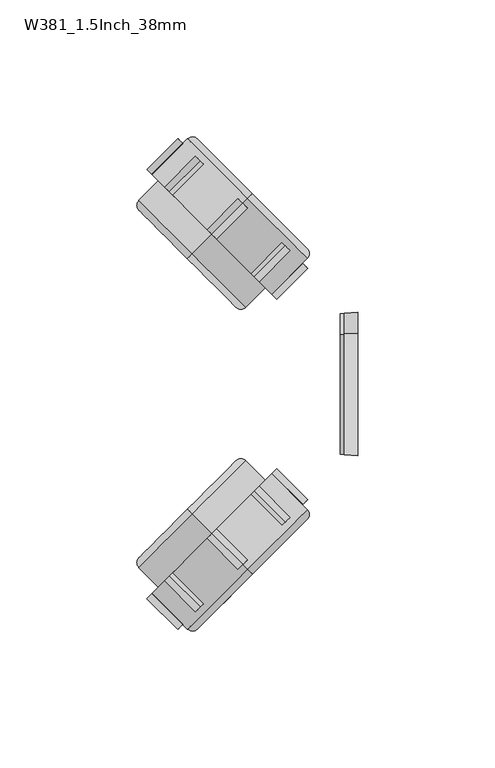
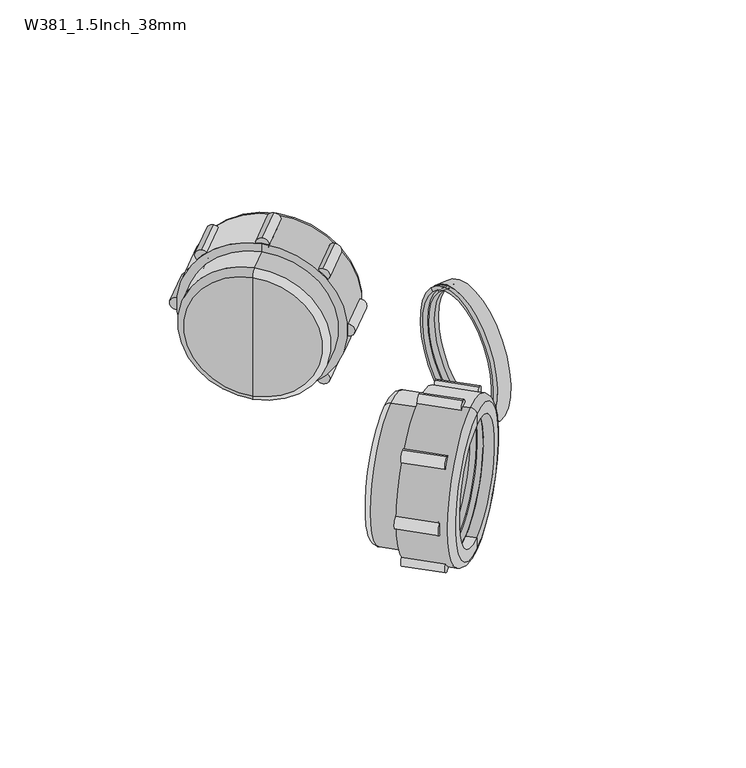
"""IFC4 building model written with IfcOpenShell, lengths in millimetres: pipe fitting geometry, Durapipe_PipeFitting_VulcatheneMechanical_DoubleWye_W38 : W381_1.5Inch_38mm."""

from ifc_helpers import new_model, si_unit, point, frame, frame_2d, origin, place, context, project, spatial, polyline, circle_curve, ellipse_curve, trimmed, segment, composite_curve, outline, extrude, source, transform, mapped, element, save
from ifc_brep_helpers import plane_surface, cylinder_surface, revolved_surface, advanced_brep


def w381_1_5inch_38mm_807b89dd(model_context):
    return source(origin(), model_context, "Body", "SolidModel", [
        advanced_brep(
        [(53.3180374, -79.6180374, -18.5969083), (54.3680374, -78.5680374, -17.1119841), (78.5680374, -54.3680374, 17.1119841), (79.6180374, -53.3180374, 18.5969083), (49.9825035, -75.8825035, -18.3140656), (75.8825035, -49.9825035, 18.3140656), (49.0718434, -74.6718434, -18.1019336), (50.1325035, -75.7325035, -18.1019336), (75.7325035, -50.1325035, 18.1019336), (74.6718434, -49.0718434, 18.1019336), (73.9718434, -49.7718434, 17.1119841), (49.7718434, -73.9718434, -17.1119841), (75.3860569, -51.1860569, 17.1119841), (51.1860569, -75.3860569, -17.1119841), (74.9860569, -51.5860569, 16.5462987), (51.5860569, -74.9860569, -16.5462987), (52.8124025, -77.0124025, -17.1119841), (53.2124025, -76.6124025, -16.5462987), (76.6124025, -53.2124025, 16.5462987), (77.0124025, -52.8124025, 17.1119841)],
        [
            (0, 1),
            (1, 2, circle_curve(frame((66.4680374, -66.4680374, 0.0), z_axis=(-0.7071067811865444, 0.7071067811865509, 0.0), x_axis=(0.5000000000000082, 0.4999999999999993, 0.7071067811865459)), 24.2)),
            (2, 3),
            (3, 0, circle_curve(frame((66.4680374, -66.4680374, 0.0), z_axis=(0.7071067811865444, -0.7071067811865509, 0.0), x_axis=(0.5000000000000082, 0.4999999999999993, 0.7071067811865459)), 26.3)),
            (2, 1, circle_curve(frame((66.4680374, -66.4680374, 0.0), z_axis=(-0.7071067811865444, 0.7071067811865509, 0.0), x_axis=(0.5000000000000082, 0.4999999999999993, 0.7071067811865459)), 24.2)),
            (0, 3, circle_curve(frame((66.4680374, -66.4680374, 0.0), z_axis=(0.7071067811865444, -0.7071067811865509, 0.0), x_axis=(0.5000000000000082, 0.4999999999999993, 0.7071067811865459)), 26.3)),
            (4, 0),
            (3, 5),
            (5, 4, circle_curve(frame((62.9325035, -62.9325035, 0.0), z_axis=(0.7071067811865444, -0.7071067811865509, 0.0), x_axis=(0.5000000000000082, 0.4999999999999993, 0.7071067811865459)), 25.9)),
            (4, 5, circle_curve(frame((62.9325035, -62.9325035, 0.0), z_axis=(0.7071067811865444, -0.7071067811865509, 0.0), x_axis=(0.5000000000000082, 0.4999999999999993, 0.7071067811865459)), 25.9)),
            (6, 7),
            (7, 8, circle_curve(frame((62.9325035, -62.9325035, 0.0), z_axis=(-0.7071067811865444, 0.7071067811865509, 0.0), x_axis=(0.5000000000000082, 0.4999999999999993, 0.7071067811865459)), 25.6)),
            (8, 9),
            (9, 6, circle_curve(frame((61.8718434, -61.8718434, 0.0), z_axis=(0.7071067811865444, -0.7071067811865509, 0.0), x_axis=(0.5000000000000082, 0.4999999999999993, 0.7071067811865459)), 25.6)),
            (8, 7, circle_curve(frame((62.9325035, -62.9325035, 0.0), z_axis=(-0.7071067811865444, 0.7071067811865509, 0.0), x_axis=(0.5000000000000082, 0.4999999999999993, 0.7071067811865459)), 25.6)),
            (6, 9, circle_curve(frame((61.8718434, -61.8718434, 0.0), z_axis=(0.7071067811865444, -0.7071067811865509, 0.0), x_axis=(0.5000000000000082, 0.4999999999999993, 0.7071067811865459)), 25.6)),
            (9, 10),
            (10, 11, circle_curve(frame((61.8718434, -61.8718434, 0.0), z_axis=(0.7071067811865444, -0.7071067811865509, 0.0), x_axis=(0.5000000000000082, 0.4999999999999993, 0.7071067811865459)), 24.2)),
            (11, 6),
            (11, 10, circle_curve(frame((61.8718434, -61.8718434, 0.0), z_axis=(0.7071067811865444, -0.7071067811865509, 0.0), x_axis=(0.5000000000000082, 0.4999999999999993, 0.7071067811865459)), 24.2)),
            (10, 12),
            (12, 13, circle_curve(frame((63.2860569, -63.2860569, 0.0), z_axis=(0.7071067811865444, -0.7071067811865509, 0.0), x_axis=(0.5000000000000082, 0.4999999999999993, 0.7071067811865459)), 24.2)),
            (13, 11),
            (13, 12, circle_curve(frame((63.2860569, -63.2860569, 0.0), z_axis=(0.7071067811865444, -0.7071067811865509, 0.0), x_axis=(0.5000000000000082, 0.4999999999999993, 0.7071067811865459)), 24.2)),
            (12, 14),
            (14, 15, circle_curve(frame((63.2860569, -63.2860569, 0.0), z_axis=(0.7071067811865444, -0.7071067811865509, 0.0), x_axis=(0.5000000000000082, 0.4999999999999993, 0.7071067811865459)), 23.4)),
            (15, 13),
            (15, 14, circle_curve(frame((63.2860569, -63.2860569, 0.0), z_axis=(0.7071067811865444, -0.7071067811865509, 0.0), x_axis=(0.5000000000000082, 0.4999999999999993, 0.7071067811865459)), 23.4)),
            (16, 17),
            (17, 18, circle_curve(frame((64.9124025, -64.9124025, 0.0), z_axis=(-0.7071067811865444, 0.7071067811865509, 0.0), x_axis=(0.5000000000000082, 0.4999999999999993, 0.7071067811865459)), 23.4)),
            (18, 19),
            (19, 16, circle_curve(frame((64.9124025, -64.9124025, 0.0), z_axis=(0.7071067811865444, -0.7071067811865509, 0.0), x_axis=(0.5000000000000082, 0.4999999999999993, 0.7071067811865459)), 24.2)),
            (18, 17, circle_curve(frame((64.9124025, -64.9124025, 0.0), z_axis=(-0.7071067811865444, 0.7071067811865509, 0.0), x_axis=(0.5000000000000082, 0.4999999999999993, 0.7071067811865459)), 23.4)),
            (16, 19, circle_curve(frame((64.9124025, -64.9124025, 0.0), z_axis=(0.7071067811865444, -0.7071067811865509, 0.0), x_axis=(0.5000000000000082, 0.4999999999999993, 0.7071067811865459)), 24.2)),
            (1, 16),
            (19, 2),
            (14, 18),
            (17, 15),
            (5, 8),
            (7, 4),
        ],
        [
            plane_surface(frame((66.4680374, -66.4680374, 0.0), z_axis=(0.7071067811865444, -0.7071067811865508, 0.0), x_axis=(0.5000000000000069, 0.49999999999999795, 0.707106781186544))),
            revolved_surface(polyline([(79.6180374, -53.3180374, 18.5969083), (75.8825035, -49.9825035, 18.3140656)]), (70.0035713, -70.0035713, 0.0), (-0.7071067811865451, 0.7071067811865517, 0.0)),
            cylinder_surface(frame((60.4076687, -60.4076687, 0.0), z_axis=(-0.7071067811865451, 0.7071067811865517, 0.0), x_axis=(0.5000000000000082, 0.4999999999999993, 0.7071067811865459)), 25.6),
            plane_surface(frame((61.8718434, -61.8718434, 0.0), z_axis=(-0.7071067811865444, 0.7071067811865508, 0.0), x_axis=(0.5000000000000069, 0.49999999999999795, 0.707106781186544))),
            revolved_surface(polyline([(73.97184340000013, -49.77184339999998, 17.11198410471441), (75.38605690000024, -51.186056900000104, 17.11198410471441)]), (59.4019258, -59.4019258, 0.0), (-0.7071067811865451, 0.7071067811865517, 0.0)),
            plane_surface(frame((63.2860569, -63.2860569, 0.0), z_axis=(-0.7071067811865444, 0.7071067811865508, 0.0), x_axis=(0.5000000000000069, 0.49999999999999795, 0.707106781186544))),
            plane_surface(frame((64.9124025, -64.9124025, 0.0), z_axis=(0.7071067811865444, -0.7071067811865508, 0.0), x_axis=(0.5000000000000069, 0.49999999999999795, 0.707106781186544))),
            revolved_surface(polyline([(77.01240250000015, -52.81240249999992, 17.11198410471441), (78.56803740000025, -54.36803740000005, 17.11198410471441)]), (70.0035713, -70.0035713, 0.0), (-0.7071067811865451, 0.7071067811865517, 0.0)),
            revolved_surface(polyline([(74.98605690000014, -51.58605689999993, 16.546298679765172), (76.61240250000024, -53.21240250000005, 16.546298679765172)]), (67.5755027, -67.5755027, 0.0), (-0.7071067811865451, 0.7071067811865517, 0.0)),
            plane_surface(frame((62.9325035, -62.9325035, 0.0), z_axis=(-0.7071067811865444, 0.7071067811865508, 0.0), x_axis=(0.5000000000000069, 0.49999999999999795, 0.707106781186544))),
        ],
        [
            (0, [[1, 2, 3, 4]]),
            (0, [[5, -1, 6, -3]]),
            (1, [[7, -4, 8, 9]]),
            (1, [[-8, -6, -7, 10]]),
            (2, [[11, 12, 13, 14]]),
            (2, [[15, -11, 16, -13]]),
            (3, [[17, 18, 19, -14]]),
            (3, [[-19, 20, -17, -16]]),
            (4, [[-18, 21, 22, 23]]),
            (4, [[24, -21, -20, -23]]),
            (5, [[25, 26, 27, -22]]),
            (5, [[-27, 28, -25, -24]]),
            (6, [[29, 30, 31, 32]]),
            (6, [[-31, 33, -29, 34]]),
            (7, [[35, -32, 36, -2]]),
            (7, [[-36, -34, -35, -5]]),
            (8, [[-26, 37, -30, 38]]),
            (8, [[-33, -37, -28, -38]]),
            (9, [[39, -12, 40, -9]]),
            (9, [[-40, -15, -39, -10]]),
        ],
    ),
        advanced_brep(
        [(54.6593542, -54.6593542, -31.0), (67.670119, -67.670119, -31.0), (67.670119, -67.670119, 31.0), (54.6593542, -54.6593542, 31.0), (54.6593542, -54.6593542, -27.7), (54.6593542, -54.6593542, 27.7), (69.4378859, -69.4378859, -28.5), (69.4378859, -69.4378859, -24.0), (69.4378859, -69.4378859, 24.0), (69.4378859, -69.4378859, 28.5), (66.4680374, -66.4680374, -26.0), (54.6593542, -54.6593542, -26.0), (54.6593542, -54.6593542, 26.0), (66.4680374, -66.4680374, 26.0), (66.4680374, -66.4680374, -24.0), (66.4680374, -66.4680374, 24.0), (47.5175757, -47.5175757, -27.7), (47.5175757, -47.5175757, 27.7), (45.7498087, -45.7498087, -25.2), (45.7498087, -45.7498087, 25.2), (45.7498087, -45.7498087, 0.0), (54.6593542, -54.6593542, 0.0)],
        [
            (0, 1),
            (1, 2, circle_curve(frame((67.670119, -67.670119, 0.0), z_axis=(-0.707106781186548, 0.7071067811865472, 0.0), x_axis=(0.0, 0.0, 1.0000000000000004)), 31.0)),
            (2, 3),
            (3, 0, circle_curve(frame((54.6593542, -54.6593542, 0.0), z_axis=(0.707106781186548, -0.7071067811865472, 0.0), x_axis=(0.0, 0.0, 1.0000000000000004)), 31.0)),
            (2, 1, circle_curve(frame((67.670119, -67.670119, 0.0), z_axis=(-0.707106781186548, 0.7071067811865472, 0.0), x_axis=(0.0, 0.0, 1.0000000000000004)), 31.0)),
            (0, 3, circle_curve(frame((54.6593542, -54.6593542, 0.0), z_axis=(0.707106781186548, -0.7071067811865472, 0.0), x_axis=(0.0, 0.0, 1.0000000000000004)), 31.0)),
            (4, 0),
            (3, 5),
            (5, 4, circle_curve(frame((54.6593542, -54.6593542, 0.0), z_axis=(0.707106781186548, -0.7071067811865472, 0.0), x_axis=(0.0, 0.0, 1.0000000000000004)), 27.7)),
            (4, 5, circle_curve(frame((54.6593542, -54.6593542, 0.0), z_axis=(0.707106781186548, -0.7071067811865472, 0.0), x_axis=(0.0, 0.0, 1.0000000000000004)), 27.7)),
            (6, 7),
            (7, 8, circle_curve(frame((69.4378859, -69.4378859, 0.0), z_axis=(-0.707106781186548, 0.7071067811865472, 0.0), x_axis=(0.0, 0.0, 1.0000000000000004)), 24.0)),
            (8, 9),
            (9, 6, circle_curve(frame((69.4378859, -69.4378859, 0.0), z_axis=(0.707106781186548, -0.7071067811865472, 0.0), x_axis=(0.0, 0.0, 1.0000000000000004)), 28.5)),
            (8, 7, circle_curve(frame((69.4378859, -69.4378859, 0.0), z_axis=(-0.707106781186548, 0.7071067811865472, 0.0), x_axis=(0.0, 0.0, 1.0000000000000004)), 24.0)),
            (6, 9, circle_curve(frame((69.4378859, -69.4378859, 0.0), z_axis=(0.707106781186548, -0.7071067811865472, 0.0), x_axis=(0.0, 0.0, 1.0000000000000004)), 28.5)),
            (1, 6, circle_curve(frame((67.670119, -67.670119, -28.5), z_axis=(-0.7071067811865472, -0.707106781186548, 0.0), x_axis=(0.707106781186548, -0.7071067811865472, 0.0)), 2.5)),
            (9, 2, circle_curve(frame((67.670119, -67.670119, 28.5), z_axis=(-0.7071067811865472, -0.707106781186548, 0.0), x_axis=(0.707106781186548, -0.7071067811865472, 0.0)), 2.5)),
            (10, 11),
            (11, 12, circle_curve(frame((54.6593542, -54.6593542, 0.0), z_axis=(-0.707106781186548, 0.7071067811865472, 0.0), x_axis=(0.0, 0.0, 1.0000000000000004)), 26.0)),
            (12, 13),
            (13, 10, circle_curve(frame((66.4680374, -66.4680374, 0.0), z_axis=(0.707106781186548, -0.7071067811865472, 0.0), x_axis=(0.0, 0.0, 1.0000000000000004)), 26.0)),
            (12, 11, circle_curve(frame((54.6593542, -54.6593542, 0.0), z_axis=(-0.707106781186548, 0.7071067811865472, 0.0), x_axis=(0.0, 0.0, 1.0000000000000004)), 26.0)),
            (10, 13, circle_curve(frame((66.4680374, -66.4680374, 0.0), z_axis=(0.707106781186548, -0.7071067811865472, 0.0), x_axis=(0.0, 0.0, 1.0000000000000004)), 26.0)),
            (14, 10),
            (13, 15),
            (15, 14, circle_curve(frame((66.4680374, -66.4680374, 0.0), z_axis=(0.707106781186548, -0.7071067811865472, 0.0), x_axis=(0.0, 0.0, 1.0000000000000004)), 24.0)),
            (14, 15, circle_curve(frame((66.4680374, -66.4680374, 0.0), z_axis=(0.707106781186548, -0.7071067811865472, 0.0), x_axis=(0.0, 0.0, 1.0000000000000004)), 24.0)),
            (7, 14),
            (15, 8),
            (16, 4),
            (5, 17),
            (17, 16, circle_curve(frame((47.5175757, -47.5175757, 0.0), z_axis=(0.707106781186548, -0.7071067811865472, 0.0), x_axis=(0.0, 0.0, 1.0000000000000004)), 27.7)),
            (16, 17, circle_curve(frame((47.5175757, -47.5175757, 0.0), z_axis=(0.707106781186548, -0.7071067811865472, 0.0), x_axis=(0.0, 0.0, 1.0000000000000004)), 27.7)),
            (18, 16, circle_curve(frame((47.5175757, -47.5175757, -25.2), z_axis=(-0.7071067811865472, -0.707106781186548, 0.0), x_axis=(0.707106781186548, -0.7071067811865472, 0.0)), 2.5)),
            (17, 19, circle_curve(frame((47.5175757, -47.5175757, 25.2), z_axis=(-0.7071067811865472, -0.707106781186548, 0.0), x_axis=(0.707106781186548, -0.7071067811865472, 0.0)), 2.5)),
            (19, 18, circle_curve(frame((45.7498087, -45.7498087, 0.0), z_axis=(0.707106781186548, -0.7071067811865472, 0.0), x_axis=(0.0, 0.0, 1.0000000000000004)), 25.2)),
            (18, 19, circle_curve(frame((45.7498087, -45.7498087, 0.0), z_axis=(0.707106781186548, -0.7071067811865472, 0.0), x_axis=(0.0, 0.0, 1.0000000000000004)), 25.2)),
            (20, 18),
            (19, 20),
            (11, 21),
            (21, 12),
        ],
        [
            cylinder_surface(frame((1173.0914358, -1173.0914358, 0.0), z_axis=(-0.707106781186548, 0.7071067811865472, 0.0), x_axis=(0.0, 0.0, 1.0000000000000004)), 31.0),
            plane_surface(frame((54.6593542, -54.6593542, 0.0), z_axis=(-0.7071067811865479, 0.7071067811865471, 0.0), x_axis=(0.0, 0.0, 1.0))),
            plane_surface(frame((69.4378859, -69.4378859, 0.0), z_axis=(0.7071067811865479, -0.7071067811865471, 0.0), x_axis=(0.0, 0.0, 1.0))),
            revolved_surface(trimmed(ellipse_curve(frame((67.670119, -67.670119, 28.5), z_axis=(-0.7071067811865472, -0.707106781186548, 0.0), x_axis=(0.707106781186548, -0.7071067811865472, 0.0)), 2.5, 2.5), [point((69.4378859, -69.4378859, 28.5))], [point((67.670119, -67.670119, 31.0))], True, "CARTESIAN"), (1173.0914358, -1173.0914358, 0.0), (-0.707106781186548, 0.7071067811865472, 0.0)),
            revolved_surface(polyline([(54.65935419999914, -54.65935420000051, 26.00000000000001), (66.46803739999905, -66.46803740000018, 26.00000000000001)]), (1173.0914358, -1173.0914358, 0.0), (-0.707106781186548, 0.7071067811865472, 0.0)),
            plane_surface(frame((66.4680374, -66.4680374, 0.0), z_axis=(-0.7071067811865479, 0.7071067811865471, 0.0), x_axis=(0.0, 0.0, 1.0))),
            revolved_surface(polyline([(66.46803739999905, -66.46803740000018, 24.00000000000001), (69.43788589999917, -69.43788590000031, 24.00000000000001)]), (1173.0914358, -1173.0914358, 0.0), (-0.707106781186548, 0.7071067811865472, 0.0)),
            cylinder_surface(frame((1173.0914358, -1173.0914358, 0.0), z_axis=(-0.707106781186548, 0.7071067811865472, 0.0), x_axis=(0.0, 0.0, 1.0000000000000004)), 27.7),
            revolved_surface(trimmed(ellipse_curve(frame((47.5175757, -47.5175757, 25.2), z_axis=(-0.7071067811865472, -0.707106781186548, 0.0), x_axis=(0.707106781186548, -0.7071067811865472, 0.0)), 2.5, 2.5), [point((47.5175757, -47.5175757, 27.7))], [point((45.7498087, -45.7498087, 25.2))], True, "CARTESIAN"), (1173.0914358, -1173.0914358, 0.0), (-0.707106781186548, 0.7071067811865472, 0.0)),
            plane_surface(frame((45.7498087, -45.7498087, 0.0), z_axis=(-0.7071067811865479, 0.7071067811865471, 0.0), x_axis=(0.0, 0.0, 1.0))),
            plane_surface(frame((54.6593542, -54.6593542, 0.0), z_axis=(0.7071067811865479, -0.7071067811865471, 0.0), x_axis=(0.0, 0.0, 1.0))),
        ],
        [
            (0, [[1, 2, 3, 4]]),
            (0, [[-3, 5, -1, 6]]),
            (1, [[7, -4, 8, 9]]),
            (1, [[-8, -6, -7, 10]]),
            (2, [[11, 12, 13, 14]]),
            (2, [[-13, 15, -11, 16]]),
            (3, [[17, -14, 18, -2]]),
            (3, [[-18, -16, -17, -5]]),
            (4, [[19, 20, 21, 22]]),
            (4, [[-21, 23, -19, 24]]),
            (5, [[25, -22, 26, 27]]),
            (5, [[-26, -24, -25, 28]]),
            (6, [[29, -27, 30, -12]]),
            (6, [[-30, -28, -29, -15]]),
            (7, [[31, -9, 32, 33]]),
            (7, [[-32, -10, -31, 34]]),
            (8, [[35, -33, 36, 37]]),
            (8, [[-36, -34, -35, 38]]),
            (9, [[39, -37, 40]]),
            (9, [[-40, -38, -39]]),
            (10, [[41, 42, -20]]),
            (10, [[-42, -41, -23]]),
        ],
    ),
        extrude(outline(composite_curve([segment(trimmed(circle_curve(frame_2d((0.0, 2.5)), 2.5), [point((0.0, 5.0))], [point((0.0, 0.0))], False, "CARTESIAN"), True, "CONTINUOUS"), segment(trimmed(circle_curve(frame_2d((0.0, 2.5)), 2.5), [point((0.0, 0.0))], [point((0.0, 5.0))], False, "CARTESIAN"), True, "CONTINUOUS")], self_intersect=False)), frame((87.8226622, -43.9820418, 2.5), z_axis=(-0.7071067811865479, 0.7071067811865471, 0.0), x_axis=(0.7071067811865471, 0.7071067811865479, 0.0)), (0.0, 0.0, 1.0), 15.9),
        extrude(outline(composite_curve([segment(trimmed(circle_curve(frame_2d((-9.0796898, -19.4203102)), 2.5), [point((-9.0796898, -16.9203102))], [point((-9.0796898, -21.9203102))], False, "CARTESIAN"), True, "CONTINUOUS"), segment(trimmed(circle_curve(frame_2d((-9.0796898, -19.4203102)), 2.5), [point((-9.0796898, -21.9203102))], [point((-9.0796898, -16.9203102))], False, "CARTESIAN"), True, "CONTINUOUS")], self_intersect=False)), frame((87.8226622, -43.9820418, 2.5), z_axis=(-0.7071067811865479, 0.7071067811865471, 0.0), x_axis=(0.7071067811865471, 0.7071067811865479, 0.0)), (0.0, 0.0, 1.0), 15.9),
        extrude(outline(composite_curve([segment(trimmed(circle_curve(frame_2d((-31.0, -28.5)), 2.5), [point((-31.0, -26.0))], [point((-31.0, -31.0))], False, "CARTESIAN"), True, "CONTINUOUS"), segment(trimmed(circle_curve(frame_2d((-31.0, -28.5)), 2.5), [point((-31.0, -31.0))], [point((-31.0, -26.0))], False, "CARTESIAN"), True, "CONTINUOUS")], self_intersect=False)), frame((87.8226622, -43.9820418, 2.5), z_axis=(-0.7071067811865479, 0.7071067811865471, 0.0), x_axis=(0.7071067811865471, 0.7071067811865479, 0.0)), (0.0, 0.0, 1.0), 15.9),
        extrude(outline(composite_curve([segment(trimmed(circle_curve(frame_2d((-52.9203102, -19.4203102)), 2.5), [point((-52.9203102, -16.9203102))], [point((-52.9203102, -21.9203102))], False, "CARTESIAN"), True, "CONTINUOUS"), segment(trimmed(circle_curve(frame_2d((-52.9203102, -19.4203102)), 2.5), [point((-52.9203102, -21.9203102))], [point((-52.9203102, -16.9203102))], False, "CARTESIAN"), True, "CONTINUOUS")], self_intersect=False)), frame((87.8226622, -43.9820418, 2.5), z_axis=(-0.7071067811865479, 0.7071067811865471, 0.0), x_axis=(0.7071067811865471, 0.7071067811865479, 0.0)), (0.0, 0.0, 1.0), 15.9),
        extrude(outline(composite_curve([segment(trimmed(circle_curve(frame_2d((-62.0, 2.5)), 2.5), [point((-62.0, 5.0))], [point((-62.0, 0.0))], False, "CARTESIAN"), True, "CONTINUOUS"), segment(trimmed(circle_curve(frame_2d((-62.0, 2.5)), 2.5), [point((-62.0, 0.0))], [point((-62.0, 5.0))], False, "CARTESIAN"), True, "CONTINUOUS")], self_intersect=False)), frame((87.8226622, -43.9820418, 2.5), z_axis=(-0.7071067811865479, 0.7071067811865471, 0.0), x_axis=(0.7071067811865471, 0.7071067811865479, 0.0)), (0.0, 0.0, 1.0), 15.9),
        extrude(outline(composite_curve([segment(trimmed(circle_curve(frame_2d((-52.9203102, 24.4203102)), 2.5), [point((-52.9203102, 26.9203102))], [point((-52.9203102, 21.9203102))], False, "CARTESIAN"), True, "CONTINUOUS"), segment(trimmed(circle_curve(frame_2d((-52.9203102, 24.4203102)), 2.5), [point((-52.9203102, 21.9203102))], [point((-52.9203102, 26.9203102))], False, "CARTESIAN"), True, "CONTINUOUS")], self_intersect=False)), frame((87.8226622, -43.9820418, 2.5), z_axis=(-0.7071067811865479, 0.7071067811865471, 0.0), x_axis=(0.7071067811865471, 0.7071067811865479, 0.0)), (0.0, 0.0, 1.0), 15.9),
        extrude(outline(composite_curve([segment(trimmed(circle_curve(frame_2d((-31.0, 33.5)), 2.5), [point((-31.0, 36.0))], [point((-31.0, 31.0))], False, "CARTESIAN"), True, "CONTINUOUS"), segment(trimmed(circle_curve(frame_2d((-31.0, 33.5)), 2.5), [point((-31.0, 31.0))], [point((-31.0, 36.0))], False, "CARTESIAN"), True, "CONTINUOUS")], self_intersect=False)), frame((87.8226622, -43.9820418, 2.5), z_axis=(-0.7071067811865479, 0.7071067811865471, 0.0), x_axis=(0.7071067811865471, 0.7071067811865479, 0.0)), (0.0, 0.0, 1.0), 15.9),
        extrude(outline(composite_curve([segment(trimmed(circle_curve(frame_2d((-9.0796898, 24.4203102)), 2.5), [point((-9.0796898, 26.9203102))], [point((-9.0796898, 21.9203102))], False, "CARTESIAN"), True, "CONTINUOUS"), segment(trimmed(circle_curve(frame_2d((-9.0796898, 24.4203102)), 2.5), [point((-9.0796898, 21.9203102))], [point((-9.0796898, 26.9203102))], False, "CARTESIAN"), True, "CONTINUOUS")], self_intersect=False)), frame((87.8226622, -43.9820418, 2.5), z_axis=(-0.7071067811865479, 0.7071067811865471, 0.0), x_axis=(0.7071067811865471, 0.7071067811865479, 0.0)), (0.0, 0.0, 1.0), 15.9),
        advanced_brep(
        [(79.6180374, 53.3180374, -18.5969083), (78.5680374, 54.3680374, -17.1119841), (54.3680374, 78.5680374, 17.1119841), (53.3180374, 79.6180374, 18.5969083), (75.8825035, 49.9825035, -18.3140656), (49.9825035, 75.8825035, 18.3140656), (74.6718434, 49.0718434, -18.1019336), (75.7325035, 50.1325035, -18.1019336), (50.1325035, 75.7325035, 18.1019336), (49.0718434, 74.6718434, 18.1019336), (49.7718434, 73.9718434, 17.1119841), (73.9718434, 49.7718434, -17.1119841), (51.1860569, 75.3860569, 17.1119841), (75.3860569, 51.1860569, -17.1119841), (51.5860569, 74.9860569, 16.5462987), (74.9860569, 51.5860569, -16.5462987), (77.0124025, 52.8124025, -17.1119841), (76.6124025, 53.2124025, -16.5462987), (53.2124025, 76.6124025, 16.5462987), (52.8124025, 77.0124025, 17.1119841)],
        [
            (0, 1),
            (1, 2, circle_curve(frame((66.4680374, 66.4680374, 0.0), z_axis=(-0.7071067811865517, -0.7071067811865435, 0.0), x_axis=(-0.4999999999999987, 0.5000000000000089, 0.707106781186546)), 24.2)),
            (2, 3),
            (3, 0, circle_curve(frame((66.4680374, 66.4680374, 0.0), z_axis=(0.7071067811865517, 0.7071067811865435, 0.0), x_axis=(-0.4999999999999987, 0.5000000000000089, 0.707106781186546)), 26.3)),
            (2, 1, circle_curve(frame((66.4680374, 66.4680374, 0.0), z_axis=(-0.7071067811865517, -0.7071067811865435, 0.0), x_axis=(-0.4999999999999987, 0.5000000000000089, 0.707106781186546)), 24.2)),
            (0, 3, circle_curve(frame((66.4680374, 66.4680374, 0.0), z_axis=(0.7071067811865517, 0.7071067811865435, 0.0), x_axis=(-0.4999999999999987, 0.5000000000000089, 0.707106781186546)), 26.3)),
            (4, 0),
            (3, 5),
            (5, 4, circle_curve(frame((62.9325035, 62.9325035, 0.0), z_axis=(0.7071067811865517, 0.7071067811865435, 0.0), x_axis=(-0.4999999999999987, 0.5000000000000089, 0.707106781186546)), 25.9)),
            (4, 5, circle_curve(frame((62.9325035, 62.9325035, 0.0), z_axis=(0.7071067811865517, 0.7071067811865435, 0.0), x_axis=(-0.4999999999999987, 0.5000000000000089, 0.707106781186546)), 25.9)),
            (6, 7),
            (7, 8, circle_curve(frame((62.9325035, 62.9325035, 0.0), z_axis=(-0.7071067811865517, -0.7071067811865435, 0.0), x_axis=(-0.4999999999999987, 0.5000000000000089, 0.707106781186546)), 25.6)),
            (8, 9),
            (9, 6, circle_curve(frame((61.8718434, 61.8718434, 0.0), z_axis=(0.7071067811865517, 0.7071067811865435, 0.0), x_axis=(-0.4999999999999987, 0.5000000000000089, 0.707106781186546)), 25.6)),
            (8, 7, circle_curve(frame((62.9325035, 62.9325035, 0.0), z_axis=(-0.7071067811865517, -0.7071067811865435, 0.0), x_axis=(-0.4999999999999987, 0.5000000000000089, 0.707106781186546)), 25.6)),
            (6, 9, circle_curve(frame((61.8718434, 61.8718434, 0.0), z_axis=(0.7071067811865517, 0.7071067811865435, 0.0), x_axis=(-0.4999999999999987, 0.5000000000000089, 0.707106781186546)), 25.6)),
            (9, 10),
            (10, 11, circle_curve(frame((61.8718434, 61.8718434, 0.0), z_axis=(0.7071067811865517, 0.7071067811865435, 0.0), x_axis=(-0.4999999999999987, 0.5000000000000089, 0.707106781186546)), 24.2)),
            (11, 6),
            (11, 10, circle_curve(frame((61.8718434, 61.8718434, 0.0), z_axis=(0.7071067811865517, 0.7071067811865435, 0.0), x_axis=(-0.4999999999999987, 0.5000000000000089, 0.707106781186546)), 24.2)),
            (10, 12),
            (12, 13, circle_curve(frame((63.2860569, 63.2860569, 0.0), z_axis=(0.7071067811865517, 0.7071067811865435, 0.0), x_axis=(-0.4999999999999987, 0.5000000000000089, 0.707106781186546)), 24.2)),
            (13, 11),
            (13, 12, circle_curve(frame((63.2860569, 63.2860569, 0.0), z_axis=(0.7071067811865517, 0.7071067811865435, 0.0), x_axis=(-0.4999999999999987, 0.5000000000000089, 0.707106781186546)), 24.2)),
            (12, 14),
            (14, 15, circle_curve(frame((63.2860569, 63.2860569, 0.0), z_axis=(0.7071067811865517, 0.7071067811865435, 0.0), x_axis=(-0.4999999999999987, 0.5000000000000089, 0.707106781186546)), 23.4)),
            (15, 13),
            (15, 14, circle_curve(frame((63.2860569, 63.2860569, 0.0), z_axis=(0.7071067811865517, 0.7071067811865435, 0.0), x_axis=(-0.4999999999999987, 0.5000000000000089, 0.707106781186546)), 23.4)),
            (16, 17),
            (17, 18, circle_curve(frame((64.9124025, 64.9124025, 0.0), z_axis=(-0.7071067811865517, -0.7071067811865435, 0.0), x_axis=(-0.4999999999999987, 0.5000000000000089, 0.707106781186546)), 23.4)),
            (18, 19),
            (19, 16, circle_curve(frame((64.9124025, 64.9124025, 0.0), z_axis=(0.7071067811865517, 0.7071067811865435, 0.0), x_axis=(-0.4999999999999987, 0.5000000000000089, 0.707106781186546)), 24.2)),
            (18, 17, circle_curve(frame((64.9124025, 64.9124025, 0.0), z_axis=(-0.7071067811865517, -0.7071067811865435, 0.0), x_axis=(-0.4999999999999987, 0.5000000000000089, 0.707106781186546)), 23.4)),
            (16, 19, circle_curve(frame((64.9124025, 64.9124025, 0.0), z_axis=(0.7071067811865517, 0.7071067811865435, 0.0), x_axis=(-0.4999999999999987, 0.5000000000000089, 0.707106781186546)), 24.2)),
            (1, 16),
            (19, 2),
            (14, 18),
            (17, 15),
            (5, 8),
            (7, 4),
        ],
        [
            plane_surface(frame((66.4680374, 66.4680374, 0.0), z_axis=(0.7071067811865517, 0.7071067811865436, 0.0), x_axis=(-0.4999999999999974, 0.5000000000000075, 0.7071067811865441))),
            revolved_surface(polyline([(53.3180374, 79.6180374, 18.5969083), (49.9825035, 75.8825035, 18.3140656)]), (70.0035713, 70.0035713, 0.0), (-0.7071067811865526, -0.7071067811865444, 0.0)),
            cylinder_surface(frame((60.4076687, 60.4076687, 0.0), z_axis=(-0.7071067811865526, -0.7071067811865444, 0.0), x_axis=(-0.4999999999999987, 0.5000000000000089, 0.707106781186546)), 25.6),
            plane_surface(frame((61.8718434, 61.8718434, 0.0), z_axis=(-0.7071067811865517, -0.7071067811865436, 0.0), x_axis=(-0.4999999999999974, 0.5000000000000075, 0.7071067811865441))),
            revolved_surface(polyline([(49.77184339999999, 73.97184340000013, 17.111984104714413), (51.18605690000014, 75.38605690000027, 17.111984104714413)]), (59.4019258, 59.4019258, 0.0), (-0.7071067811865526, -0.7071067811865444, 0.0)),
            plane_surface(frame((63.2860569, 63.2860569, 0.0), z_axis=(-0.7071067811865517, -0.7071067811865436, 0.0), x_axis=(-0.4999999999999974, 0.5000000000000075, 0.7071067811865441))),
            plane_surface(frame((64.9124025, 64.9124025, 0.0), z_axis=(0.7071067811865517, 0.7071067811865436, 0.0), x_axis=(-0.4999999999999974, 0.5000000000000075, 0.7071067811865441))),
            revolved_surface(polyline([(52.81240249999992, 77.01240250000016, 17.111984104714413), (54.36803740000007, 78.5680374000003, 17.111984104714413)]), (70.0035713, 70.0035713, 0.0), (-0.7071067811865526, -0.7071067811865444, 0.0)),
            revolved_surface(polyline([(51.586056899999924, 74.98605690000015, 16.546298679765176), (53.21240250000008, 76.61240250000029, 16.546298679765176)]), (67.5755027, 67.5755027, 0.0), (-0.7071067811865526, -0.7071067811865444, 0.0)),
            plane_surface(frame((62.9325035, 62.9325035, 0.0), z_axis=(-0.7071067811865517, -0.7071067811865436, 0.0), x_axis=(-0.4999999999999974, 0.5000000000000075, 0.7071067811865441))),
        ],
        [
            (0, [[1, 2, 3, 4]]),
            (0, [[5, -1, 6, -3]]),
            (1, [[7, -4, 8, 9]]),
            (1, [[-8, -6, -7, 10]]),
            (2, [[11, 12, 13, 14]]),
            (2, [[15, -11, 16, -13]]),
            (3, [[17, 18, 19, -14]]),
            (3, [[-19, 20, -17, -16]]),
            (4, [[-18, 21, 22, 23]]),
            (4, [[24, -21, -20, -23]]),
            (5, [[25, 26, 27, -22]]),
            (5, [[-27, 28, -25, -24]]),
            (6, [[29, 30, 31, 32]]),
            (6, [[-31, 33, -29, 34]]),
            (7, [[35, -32, 36, -2]]),
            (7, [[-36, -34, -35, -5]]),
            (8, [[-26, 37, -30, 38]]),
            (8, [[-33, -37, -28, -38]]),
            (9, [[39, -12, 40, -9]]),
            (9, [[-40, -15, -39, -10]]),
        ],
    ),
        advanced_brep(
        [(54.6593542, 54.6593542, -31.0), (67.670119, 67.670119, -31.0), (67.670119, 67.670119, 31.0), (54.6593542, 54.6593542, 31.0), (54.6593542, 54.6593542, -27.7), (54.6593542, 54.6593542, 27.7), (69.4378859, 69.4378859, -28.5), (69.4378859, 69.4378859, -24.0), (69.4378859, 69.4378859, 24.0), (69.4378859, 69.4378859, 28.5), (66.4680374, 66.4680374, -26.0), (54.6593542, 54.6593542, -26.0), (54.6593542, 54.6593542, 26.0), (66.4680374, 66.4680374, 26.0), (66.4680374, 66.4680374, -24.0), (66.4680374, 66.4680374, 24.0), (47.5175757, 47.5175757, -27.7), (47.5175757, 47.5175757, 27.7), (45.7498087, 45.7498087, -25.2), (45.7498087, 45.7498087, 25.2), (45.7498087, 45.7498087, 0.0), (54.6593542, 54.6593542, 0.0)],
        [
            (0, 1),
            (1, 2, circle_curve(frame((67.670119, 67.670119, 0.0), z_axis=(-0.707106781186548, -0.7071067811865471, 0.0), x_axis=(0.0, 0.0, 1.0000000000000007)), 31.0)),
            (2, 3),
            (3, 0, circle_curve(frame((54.6593542, 54.6593542, 0.0), z_axis=(0.707106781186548, 0.7071067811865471, 0.0), x_axis=(0.0, 0.0, 1.0000000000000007)), 31.0)),
            (2, 1, circle_curve(frame((67.670119, 67.670119, 0.0), z_axis=(-0.707106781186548, -0.7071067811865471, 0.0), x_axis=(0.0, 0.0, 1.0000000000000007)), 31.0)),
            (0, 3, circle_curve(frame((54.6593542, 54.6593542, 0.0), z_axis=(0.707106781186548, 0.7071067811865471, 0.0), x_axis=(0.0, 0.0, 1.0000000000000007)), 31.0)),
            (4, 0),
            (3, 5),
            (5, 4, circle_curve(frame((54.6593542, 54.6593542, 0.0), z_axis=(0.707106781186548, 0.7071067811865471, 0.0), x_axis=(0.0, 0.0, 1.0000000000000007)), 27.7)),
            (4, 5, circle_curve(frame((54.6593542, 54.6593542, 0.0), z_axis=(0.707106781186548, 0.7071067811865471, 0.0), x_axis=(0.0, 0.0, 1.0000000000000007)), 27.7)),
            (6, 7),
            (7, 8, circle_curve(frame((69.4378859, 69.4378859, 0.0), z_axis=(-0.707106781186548, -0.7071067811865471, 0.0), x_axis=(0.0, 0.0, 1.0000000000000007)), 24.0)),
            (8, 9),
            (9, 6, circle_curve(frame((69.4378859, 69.4378859, 0.0), z_axis=(0.707106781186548, 0.7071067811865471, 0.0), x_axis=(0.0, 0.0, 1.0000000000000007)), 28.5)),
            (8, 7, circle_curve(frame((69.4378859, 69.4378859, 0.0), z_axis=(-0.707106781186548, -0.7071067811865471, 0.0), x_axis=(0.0, 0.0, 1.0000000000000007)), 24.0)),
            (6, 9, circle_curve(frame((69.4378859, 69.4378859, 0.0), z_axis=(0.707106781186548, 0.7071067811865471, 0.0), x_axis=(0.0, 0.0, 1.0000000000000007)), 28.5)),
            (1, 6, circle_curve(frame((67.670119, 67.670119, -28.5), z_axis=(0.7071067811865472, -0.7071067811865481, 0.0), x_axis=(0.7071067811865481, 0.7071067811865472, 0.0)), 2.5)),
            (9, 2, circle_curve(frame((67.670119, 67.670119, 28.5), z_axis=(0.7071067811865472, -0.7071067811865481, 0.0), x_axis=(0.7071067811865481, 0.7071067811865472, 0.0)), 2.5)),
            (10, 11),
            (11, 12, circle_curve(frame((54.6593542, 54.6593542, 0.0), z_axis=(-0.707106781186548, -0.7071067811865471, 0.0), x_axis=(0.0, 0.0, 1.0000000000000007)), 26.0)),
            (12, 13),
            (13, 10, circle_curve(frame((66.4680374, 66.4680374, 0.0), z_axis=(0.707106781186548, 0.7071067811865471, 0.0), x_axis=(0.0, 0.0, 1.0000000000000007)), 26.0)),
            (12, 11, circle_curve(frame((54.6593542, 54.6593542, 0.0), z_axis=(-0.707106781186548, -0.7071067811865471, 0.0), x_axis=(0.0, 0.0, 1.0000000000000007)), 26.0)),
            (10, 13, circle_curve(frame((66.4680374, 66.4680374, 0.0), z_axis=(0.707106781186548, 0.7071067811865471, 0.0), x_axis=(0.0, 0.0, 1.0000000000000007)), 26.0)),
            (14, 10),
            (13, 15),
            (15, 14, circle_curve(frame((66.4680374, 66.4680374, 0.0), z_axis=(0.707106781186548, 0.7071067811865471, 0.0), x_axis=(0.0, 0.0, 1.0000000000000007)), 24.0)),
            (14, 15, circle_curve(frame((66.4680374, 66.4680374, 0.0), z_axis=(0.707106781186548, 0.7071067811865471, 0.0), x_axis=(0.0, 0.0, 1.0000000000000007)), 24.0)),
            (7, 14),
            (15, 8),
            (16, 4),
            (5, 17),
            (17, 16, circle_curve(frame((47.5175757, 47.5175757, 0.0), z_axis=(0.707106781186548, 0.7071067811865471, 0.0), x_axis=(0.0, 0.0, 1.0000000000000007)), 27.7)),
            (16, 17, circle_curve(frame((47.5175757, 47.5175757, 0.0), z_axis=(0.707106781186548, 0.7071067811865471, 0.0), x_axis=(0.0, 0.0, 1.0000000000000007)), 27.7)),
            (18, 16, circle_curve(frame((47.5175757, 47.5175757, -25.2), z_axis=(0.7071067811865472, -0.7071067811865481, 0.0), x_axis=(0.7071067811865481, 0.7071067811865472, 0.0)), 2.5)),
            (17, 19, circle_curve(frame((47.5175757, 47.5175757, 25.2), z_axis=(0.7071067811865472, -0.7071067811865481, 0.0), x_axis=(0.7071067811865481, 0.7071067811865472, 0.0)), 2.5)),
            (19, 18, circle_curve(frame((45.7498087, 45.7498087, 0.0), z_axis=(0.707106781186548, 0.7071067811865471, 0.0), x_axis=(0.0, 0.0, 1.0000000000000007)), 25.2)),
            (18, 19, circle_curve(frame((45.7498087, 45.7498087, 0.0), z_axis=(0.707106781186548, 0.7071067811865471, 0.0), x_axis=(0.0, 0.0, 1.0000000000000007)), 25.2)),
            (20, 18),
            (19, 20),
            (11, 21),
            (21, 12),
        ],
        [
            cylinder_surface(frame((1173.0914358, 1173.0914358, 0.0), z_axis=(-0.7071067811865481, -0.7071067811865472, 0.0), x_axis=(0.0, 0.0, 1.0000000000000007)), 31.0),
            plane_surface(frame((54.6593542, 54.6593542, 0.0), z_axis=(-0.707106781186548, -0.7071067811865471, 0.0), x_axis=(0.0, 0.0, 1.0))),
            plane_surface(frame((69.4378859, 69.4378859, 0.0), z_axis=(0.707106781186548, 0.7071067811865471, 0.0), x_axis=(0.0, 0.0, 1.0))),
            revolved_surface(trimmed(ellipse_curve(frame((67.670119, 67.670119, 28.5), z_axis=(0.7071067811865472, -0.7071067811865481, 0.0), x_axis=(0.7071067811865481, 0.7071067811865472, 0.0)), 2.5, 2.5), [point((69.4378859, 69.4378859, 28.5))], [point((67.670119, 67.670119, 31.0))], True, "CARTESIAN"), (1173.0914358, 1173.0914358, 0.0), (-0.7071067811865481, -0.7071067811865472, 0.0)),
            revolved_surface(polyline([(54.659354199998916, 54.65935420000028, 26.000000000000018), (66.46803739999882, 66.46803740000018, 26.000000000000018)]), (1173.0914358, 1173.0914358, 0.0), (-0.7071067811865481, -0.7071067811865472, 0.0)),
            plane_surface(frame((66.4680374, 66.4680374, 0.0), z_axis=(-0.707106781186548, -0.7071067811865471, 0.0), x_axis=(0.0, 0.0, 1.0))),
            revolved_surface(polyline([(66.46803739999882, 66.46803740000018, 24.000000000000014), (69.43788589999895, 69.43788590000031, 24.000000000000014)]), (1173.0914358, 1173.0914358, 0.0), (-0.7071067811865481, -0.7071067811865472, 0.0)),
            cylinder_surface(frame((1173.0914358, 1173.0914358, 0.0), z_axis=(-0.7071067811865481, -0.7071067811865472, 0.0), x_axis=(0.0, 0.0, 1.0000000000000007)), 27.7),
            revolved_surface(trimmed(ellipse_curve(frame((47.5175757, 47.5175757, 25.2), z_axis=(0.7071067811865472, -0.7071067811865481, 0.0), x_axis=(0.7071067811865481, 0.7071067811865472, 0.0)), 2.5, 2.5), [point((47.5175757, 47.5175757, 27.7))], [point((45.7498087, 45.7498087, 25.2))], True, "CARTESIAN"), (1173.0914358, 1173.0914358, 0.0), (-0.7071067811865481, -0.7071067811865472, 0.0)),
            plane_surface(frame((45.7498087, 45.7498087, 0.0), z_axis=(-0.707106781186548, -0.7071067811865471, 0.0), x_axis=(0.0, 0.0, 1.0))),
            plane_surface(frame((54.6593542, 54.6593542, 0.0), z_axis=(0.707106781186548, 0.7071067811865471, 0.0), x_axis=(0.0, 0.0, 1.0))),
        ],
        [
            (0, [[1, 2, 3, 4]]),
            (0, [[-3, 5, -1, 6]]),
            (1, [[7, -4, 8, 9]]),
            (1, [[-8, -6, -7, 10]]),
            (2, [[11, 12, 13, 14]]),
            (2, [[-13, 15, -11, 16]]),
            (3, [[17, -14, 18, -2]]),
            (3, [[-18, -16, -17, -5]]),
            (4, [[19, 20, 21, 22]]),
            (4, [[-21, 23, -19, 24]]),
            (5, [[25, -22, 26, 27]]),
            (5, [[-26, -24, -25, 28]]),
            (6, [[29, -27, 30, -12]]),
            (6, [[-30, -28, -29, -15]]),
            (7, [[31, -9, 32, 33]]),
            (7, [[-32, -10, -31, 34]]),
            (8, [[35, -33, 36, 37]]),
            (8, [[-36, -34, -35, 38]]),
            (9, [[39, -37, 40]]),
            (9, [[-40, -38, -39]]),
            (10, [[41, 42, -20]]),
            (10, [[-42, -41, -23]]),
        ],
    ),
        extrude(outline(composite_curve([segment(trimmed(circle_curve(frame_2d((0.0, 2.5)), 2.5), [point((0.0, 5.0))], [point((0.0, 0.0))], False, "CARTESIAN"), True, "CONTINUOUS"), segment(trimmed(circle_curve(frame_2d((0.0, 2.5)), 2.5), [point((0.0, 0.0))], [point((0.0, 5.0))], False, "CARTESIAN"), True, "CONTINUOUS")], self_intersect=False)), frame((32.739044, 76.5796644, 2.5), z_axis=(0.707106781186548, 0.7071067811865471, 0.0), x_axis=(0.7071067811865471, -0.707106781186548, 0.0)), (0.0, 0.0, 1.0), 15.9),
        extrude(outline(composite_curve([segment(trimmed(circle_curve(frame_2d((9.0796898, -19.4203102)), 2.5), [point((9.0796898, -16.9203102))], [point((9.0796898, -21.9203102))], False, "CARTESIAN"), True, "CONTINUOUS"), segment(trimmed(circle_curve(frame_2d((9.0796898, -19.4203102)), 2.5), [point((9.0796898, -21.9203102))], [point((9.0796898, -16.9203102))], False, "CARTESIAN"), True, "CONTINUOUS")], self_intersect=False)), frame((32.739044, 76.5796644, 2.5), z_axis=(0.707106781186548, 0.7071067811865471, 0.0), x_axis=(0.7071067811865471, -0.707106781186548, 0.0)), (0.0, 0.0, 1.0), 15.9),
        extrude(outline(composite_curve([segment(trimmed(circle_curve(frame_2d((31.0, -28.5)), 2.5), [point((31.0, -26.0))], [point((31.0, -31.0))], False, "CARTESIAN"), True, "CONTINUOUS"), segment(trimmed(circle_curve(frame_2d((31.0, -28.5)), 2.5), [point((31.0, -31.0))], [point((31.0, -26.0))], False, "CARTESIAN"), True, "CONTINUOUS")], self_intersect=False)), frame((32.739044, 76.5796644, 2.5), z_axis=(0.707106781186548, 0.7071067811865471, 0.0), x_axis=(0.7071067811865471, -0.707106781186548, 0.0)), (0.0, 0.0, 1.0), 15.9),
        extrude(outline(composite_curve([segment(trimmed(circle_curve(frame_2d((52.9203102, -19.4203102)), 2.5), [point((52.9203102, -16.9203102))], [point((52.9203102, -21.9203102))], False, "CARTESIAN"), True, "CONTINUOUS"), segment(trimmed(circle_curve(frame_2d((52.9203102, -19.4203102)), 2.5), [point((52.9203102, -21.9203102))], [point((52.9203102, -16.9203102))], False, "CARTESIAN"), True, "CONTINUOUS")], self_intersect=False)), frame((32.739044, 76.5796644, 2.5), z_axis=(0.707106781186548, 0.7071067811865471, 0.0), x_axis=(0.7071067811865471, -0.707106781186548, 0.0)), (0.0, 0.0, 1.0), 15.9),
        extrude(outline(composite_curve([segment(trimmed(circle_curve(frame_2d((62.0, 2.5)), 2.5), [point((62.0, 5.0))], [point((62.0, 0.0))], False, "CARTESIAN"), True, "CONTINUOUS"), segment(trimmed(circle_curve(frame_2d((62.0, 2.5)), 2.5), [point((62.0, 0.0))], [point((62.0, 5.0))], False, "CARTESIAN"), True, "CONTINUOUS")], self_intersect=False)), frame((32.739044, 76.5796644, 2.5), z_axis=(0.707106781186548, 0.7071067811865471, 0.0), x_axis=(0.7071067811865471, -0.707106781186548, 0.0)), (0.0, 0.0, 1.0), 15.9),
        extrude(outline(composite_curve([segment(trimmed(circle_curve(frame_2d((52.9203102, 24.4203102)), 2.5), [point((52.9203102, 26.9203102))], [point((52.9203102, 21.9203102))], False, "CARTESIAN"), True, "CONTINUOUS"), segment(trimmed(circle_curve(frame_2d((52.9203102, 24.4203102)), 2.5), [point((52.9203102, 21.9203102))], [point((52.9203102, 26.9203102))], False, "CARTESIAN"), True, "CONTINUOUS")], self_intersect=False)), frame((32.739044, 76.5796644, 2.5), z_axis=(0.707106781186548, 0.7071067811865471, 0.0), x_axis=(0.7071067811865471, -0.707106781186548, 0.0)), (0.0, 0.0, 1.0), 15.9),
        extrude(outline(composite_curve([segment(trimmed(circle_curve(frame_2d((31.0, 33.5)), 2.5), [point((31.0, 36.0))], [point((31.0, 31.0))], False, "CARTESIAN"), True, "CONTINUOUS"), segment(trimmed(circle_curve(frame_2d((31.0, 33.5)), 2.5), [point((31.0, 31.0))], [point((31.0, 36.0))], False, "CARTESIAN"), True, "CONTINUOUS")], self_intersect=False)), frame((32.739044, 76.5796644, 2.5), z_axis=(0.707106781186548, 0.7071067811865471, 0.0), x_axis=(0.7071067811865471, -0.707106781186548, 0.0)), (0.0, 0.0, 1.0), 15.9),
        extrude(outline(composite_curve([segment(trimmed(circle_curve(frame_2d((9.0796898, 24.4203102)), 2.5), [point((9.0796898, 26.9203102))], [point((9.0796898, 21.9203102))], False, "CARTESIAN"), True, "CONTINUOUS"), segment(trimmed(circle_curve(frame_2d((9.0796898, 24.4203102)), 2.5), [point((9.0796898, 21.9203102))], [point((9.0796898, 26.9203102))], False, "CARTESIAN"), True, "CONTINUOUS")], self_intersect=False)), frame((32.739044, 76.5796644, 2.5), z_axis=(0.707106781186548, 0.7071067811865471, 0.0), x_axis=(0.7071067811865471, -0.707106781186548, 0.0)), (0.0, 0.0, 1.0), 15.9),
        advanced_brep(
        [(108.0, 18.5969083, 18.5969083), (108.0, 17.1119841, 17.1119841), (108.0, -17.1119841, -17.1119841), (108.0, -18.5969083, -18.5969083), (103.0, 18.3140656, 18.3140656), (103.0, -18.3140656, -18.3140656), (101.5, 18.1019336, 18.1019336), (103.0, 18.1019336, 18.1019336), (103.0, -18.1019336, -18.1019336), (101.5, -18.1019336, -18.1019336), (101.5, -17.1119841, -17.1119841), (101.5, 17.1119841, 17.1119841), (103.5, -17.1119841, -17.1119841), (103.5, 17.1119841, 17.1119841), (103.5, -16.5462987, -16.5462987), (103.5, 16.5462987, 16.5462987), (105.8, 17.1119841, 17.1119841), (105.8, 16.5462987, 16.5462987), (105.8, -16.5462987, -16.5462987), (105.8, -17.1119841, -17.1119841)],
        [
            (0, 1),
            (1, 2, circle_curve(frame((108.0, 0.0, 0.0), z_axis=(-1.0, 0.0, 0.0), x_axis=(0.0, -0.7071067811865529, -0.7071067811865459)), 24.2)),
            (2, 3),
            (3, 0, circle_curve(frame((108.0, 0.0, 0.0), z_axis=(1.0, 0.0, 0.0), x_axis=(0.0, -0.7071067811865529, -0.7071067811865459)), 26.3)),
            (2, 1, circle_curve(frame((108.0, 0.0, 0.0), z_axis=(-1.0, 0.0, 0.0), x_axis=(0.0, -0.7071067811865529, -0.7071067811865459)), 24.2)),
            (0, 3, circle_curve(frame((108.0, 0.0, 0.0), z_axis=(1.0, 0.0, 0.0), x_axis=(0.0, -0.7071067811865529, -0.7071067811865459)), 26.3)),
            (4, 0),
            (3, 5),
            (5, 4, circle_curve(frame((103.0, 0.0, 0.0), z_axis=(1.0, 0.0, 0.0), x_axis=(0.0, -0.7071067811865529, -0.7071067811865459)), 25.9)),
            (4, 5, circle_curve(frame((103.0, 0.0, 0.0), z_axis=(1.0, 0.0, 0.0), x_axis=(0.0, -0.7071067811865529, -0.7071067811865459)), 25.9)),
            (6, 7),
            (7, 8, circle_curve(frame((103.0, 0.0, 0.0), z_axis=(-1.0, 0.0, 0.0), x_axis=(0.0, -0.7071067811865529, -0.7071067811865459)), 25.6)),
            (8, 9),
            (9, 6, circle_curve(frame((101.5, 0.0, 0.0), z_axis=(1.0, 0.0, 0.0), x_axis=(0.0, -0.7071067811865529, -0.7071067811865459)), 25.6)),
            (8, 7, circle_curve(frame((103.0, 0.0, 0.0), z_axis=(-1.0, 0.0, 0.0), x_axis=(0.0, -0.7071067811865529, -0.7071067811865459)), 25.6)),
            (6, 9, circle_curve(frame((101.5, 0.0, 0.0), z_axis=(1.0, 0.0, 0.0), x_axis=(0.0, -0.7071067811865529, -0.7071067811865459)), 25.6)),
            (9, 10),
            (10, 11, circle_curve(frame((101.5, 0.0, 0.0), z_axis=(1.0, 0.0, 0.0), x_axis=(0.0, -0.7071067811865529, -0.7071067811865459)), 24.2)),
            (11, 6),
            (11, 10, circle_curve(frame((101.5, 0.0, 0.0), z_axis=(1.0, 0.0, 0.0), x_axis=(0.0, -0.7071067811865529, -0.7071067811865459)), 24.2)),
            (10, 12),
            (12, 13, circle_curve(frame((103.5, 0.0, 0.0), z_axis=(1.0, 0.0, 0.0), x_axis=(0.0, -0.7071067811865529, -0.7071067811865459)), 24.2)),
            (13, 11),
            (13, 12, circle_curve(frame((103.5, 0.0, 0.0), z_axis=(1.0, 0.0, 0.0), x_axis=(0.0, -0.7071067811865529, -0.7071067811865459)), 24.2)),
            (12, 14),
            (14, 15, circle_curve(frame((103.5, 0.0, 0.0), z_axis=(1.0, 0.0, 0.0), x_axis=(0.0, -0.7071067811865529, -0.7071067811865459)), 23.4)),
            (15, 13),
            (15, 14, circle_curve(frame((103.5, 0.0, 0.0), z_axis=(1.0, 0.0, 0.0), x_axis=(0.0, -0.7071067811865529, -0.7071067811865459)), 23.4)),
            (16, 17),
            (17, 18, circle_curve(frame((105.8, 0.0, 0.0), z_axis=(-1.0, 0.0, 0.0), x_axis=(0.0, -0.7071067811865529, -0.7071067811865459)), 23.4)),
            (18, 19),
            (19, 16, circle_curve(frame((105.8, 0.0, 0.0), z_axis=(1.0, 0.0, 0.0), x_axis=(0.0, -0.7071067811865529, -0.7071067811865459)), 24.2)),
            (18, 17, circle_curve(frame((105.8, 0.0, 0.0), z_axis=(-1.0, 0.0, 0.0), x_axis=(0.0, -0.7071067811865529, -0.7071067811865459)), 23.4)),
            (16, 19, circle_curve(frame((105.8, 0.0, 0.0), z_axis=(1.0, 0.0, 0.0), x_axis=(0.0, -0.7071067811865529, -0.7071067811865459)), 24.2)),
            (1, 16),
            (19, 2),
            (14, 18),
            (17, 15),
            (5, 8),
            (7, 4),
        ],
        [
            plane_surface(frame((108.0, 0.0, 0.0), z_axis=(1.0, 0.0, 0.0), x_axis=(0.0, -0.707106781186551, -0.707106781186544))),
            revolved_surface(polyline([(108.0, -18.5969083, -18.5969083), (103.0, -18.3140656, -18.3140656)]), (113.0, 0.0, 0.0), (-1.0000000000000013, 0.0, 0.0)),
            cylinder_surface(frame((99.4293443, 0.0, 0.0), z_axis=(-1.0000000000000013, 0.0, 0.0), x_axis=(0.0, -0.7071067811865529, -0.7071067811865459)), 25.6),
            plane_surface(frame((101.5, 0.0, 0.0), z_axis=(-1.0, 0.0, 0.0), x_axis=(0.0, -0.707106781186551, -0.707106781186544))),
            revolved_surface(polyline([(101.50000000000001, -17.11198410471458, -17.11198410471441), (103.50000000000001, -17.11198410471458, -17.11198410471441)]), (98.007009, 0.0, 0.0), (-1.0000000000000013, 0.0, 0.0)),
            plane_surface(frame((103.5, 0.0, 0.0), z_axis=(-1.0, 0.0, 0.0), x_axis=(0.0, -0.707106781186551, -0.707106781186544))),
            plane_surface(frame((105.8, 0.0, 0.0), z_axis=(1.0, 0.0, 0.0), x_axis=(0.0, -0.707106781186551, -0.707106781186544))),
            revolved_surface(polyline([(105.79999999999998, -17.11198410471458, -17.11198410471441), (107.99999999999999, -17.11198410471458, -17.11198410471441)]), (113.0, 0.0, 0.0), (-1.0000000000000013, 0.0, 0.0)),
            revolved_surface(polyline([(103.49999999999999, -16.546298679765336, -16.546298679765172), (105.79999999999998, -16.546298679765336, -16.546298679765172)]), (109.5661924, 0.0, 0.0), (-1.0000000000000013, 0.0, 0.0)),
            plane_surface(frame((103.0, 0.0, 0.0), z_axis=(-1.0, 0.0, 0.0), x_axis=(0.0, -0.707106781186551, -0.707106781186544))),
        ],
        [
            (0, [[1, 2, 3, 4]]),
            (0, [[5, -1, 6, -3]]),
            (1, [[7, -4, 8, 9]]),
            (1, [[-8, -6, -7, 10]]),
            (2, [[11, 12, 13, 14]]),
            (2, [[15, -11, 16, -13]]),
            (3, [[17, 18, 19, -14]]),
            (3, [[-19, 20, -17, -16]]),
            (4, [[-18, 21, 22, 23]]),
            (4, [[24, -21, -20, -23]]),
            (5, [[25, 26, 27, -22]]),
            (5, [[-27, 28, -25, -24]]),
            (6, [[29, 30, 31, 32]]),
            (6, [[-31, 33, -29, 34]]),
            (7, [[35, -32, 36, -2]]),
            (7, [[-36, -34, -35, -5]]),
            (8, [[-26, 37, -30, 38]]),
            (8, [[-33, -37, -28, -38]]),
            (9, [[39, -12, 40, -9]]),
            (9, [[-40, -15, -39, -10]]),
        ],
    ),
    ])


if __name__ == "__main__":
    model = new_model("IFC4")
    model_context = context("Model", 3, world=origin())
    ifc_project = project(units=[si_unit("LENGTHUNIT", "METRE", prefix="MILLI")], contexts=[model_context])
    site = spatial("IfcSite", under=ifc_project)
    building = spatial("IfcBuilding", under=site)
    placement = place(None, origin())
    w381_1_5inch_38mm_shape = w381_1_5inch_38mm_807b89dd(model_context)
    element("IfcPipeFitting", 1, ObjectType="Durapipe_PipeFitting_VulcatheneMechanical_DoubleWye_W38 : W381_1.5Inch_38mm", at=placement, inside=building, context=model_context, shape_type="MappedRepresentation", body=[
        mapped(w381_1_5inch_38mm_shape, transform((0.0, 0.0, 0.0), x_axis=(1.0, 0.0, 0.0), y_axis=(0.0, 1.0, 0.0), z_axis=(0.0, 0.0, 1.0))),
    ])
    save(model, "model.ifc")
